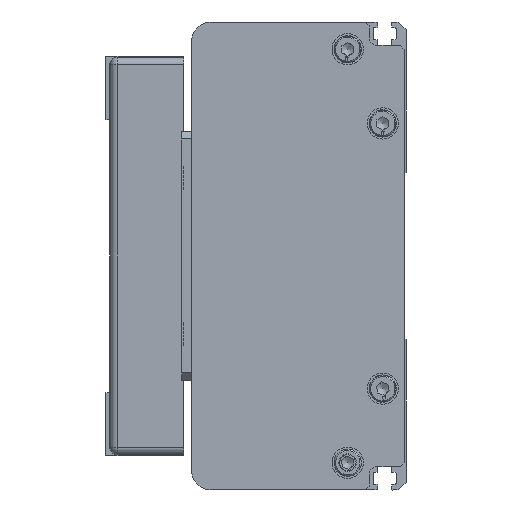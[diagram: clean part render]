
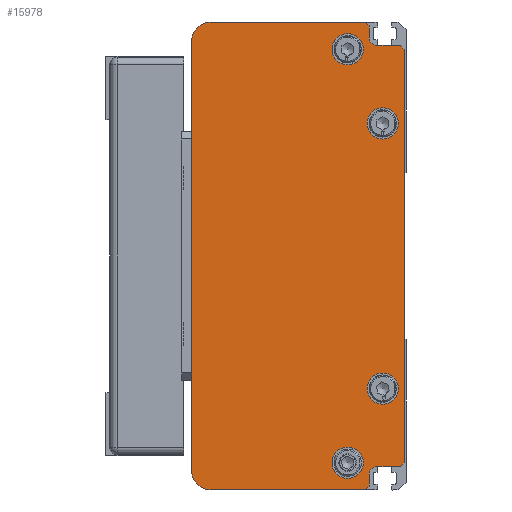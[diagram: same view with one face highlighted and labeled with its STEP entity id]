
A CAD part, left-side view. The second image highlights one B-rep face of the part: STEP entity #15978.
In plain terms, the highlighted planar face has unit normal (-1, 0, 0) as drawn and (0, 0, -1) by its records, which use the part's own axes.
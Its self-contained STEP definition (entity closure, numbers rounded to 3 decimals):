
#840=FACE_BOUND('',#2651,.T.);
#841=FACE_BOUND('',#2652,.T.);
#842=FACE_BOUND('',#2653,.T.);
#843=FACE_BOUND('',#2654,.T.);
#1168=CIRCLE('',#17126,5.);
#1169=CIRCLE('',#17128,5.);
#1170=CIRCLE('',#17129,2.);
#1171=CIRCLE('',#17130,2.);
#1172=CIRCLE('',#17131,4.);
#1173=CIRCLE('',#17132,4.);
#1174=CIRCLE('',#17133,4.);
#1175=CIRCLE('',#17134,4.);
#1608=FACE_OUTER_BOUND('',#2650,.T.);
#2650=EDGE_LOOP('',(#11016,#11017,#11018,#11019,#11020,#11021,#11022,#11023,
#11024,#11025,#11026,#11027,#11028,#11029,#11030,#11031));
#2651=EDGE_LOOP('',(#11032));
#2652=EDGE_LOOP('',(#11033));
#2653=EDGE_LOOP('',(#11034));
#2654=EDGE_LOOP('',(#11035));
#3897=LINE('',#22881,#5430);
#3898=LINE('',#22883,#5431);
#3899=LINE('',#22886,#5432);
#3900=LINE('',#22888,#5433);
#3901=LINE('',#22890,#5434);
#3902=LINE('',#22892,#5435);
#3903=LINE('',#22896,#5436);
#3904=LINE('',#22898,#5437);
#3905=LINE('',#22900,#5438);
#3906=LINE('',#22902,#5439);
#3907=LINE('',#22904,#5440);
#3908=LINE('',#22907,#5441);
#5430=VECTOR('',#18686,1.414);
#5431=VECTOR('',#18687,39.5);
#5432=VECTOR('',#18690,110.);
#5433=VECTOR('',#18691,39.5);
#5434=VECTOR('',#18692,1.414);
#5435=VECTOR('',#18693,3.);
#5436=VECTOR('',#18696,6.);
#5437=VECTOR('',#18697,1.414);
#5438=VECTOR('',#18698,106.);
#5439=VECTOR('',#18699,1.414);
#5440=VECTOR('',#18700,6.);
#5441=VECTOR('',#18703,3.);
#7005=VERTEX_POINT('',#22873);
#7006=VERTEX_POINT('',#22875);
#7007=VERTEX_POINT('',#22879);
#7008=VERTEX_POINT('',#22880);
#7009=VERTEX_POINT('',#22882);
#7010=VERTEX_POINT('',#22884);
#7011=VERTEX_POINT('',#22887);
#7012=VERTEX_POINT('',#22889);
#7013=VERTEX_POINT('',#22891);
#7014=VERTEX_POINT('',#22893);
#7015=VERTEX_POINT('',#22895);
#7016=VERTEX_POINT('',#22897);
#7017=VERTEX_POINT('',#22899);
#7018=VERTEX_POINT('',#22901);
#7019=VERTEX_POINT('',#22903);
#7020=VERTEX_POINT('',#22905);
#7021=VERTEX_POINT('',#22908);
#7022=VERTEX_POINT('',#22910);
#7023=VERTEX_POINT('',#22912);
#7024=VERTEX_POINT('',#22914);
#8607=EDGE_CURVE('',#7005,#7006,#1168,.T.);
#8609=EDGE_CURVE('',#7007,#7008,#3897,.T.);
#8610=EDGE_CURVE('',#7007,#7009,#3898,.T.);
#8611=EDGE_CURVE('',#7010,#7009,#1169,.T.);
#8612=EDGE_CURVE('',#7010,#7006,#3899,.T.);
#8613=EDGE_CURVE('',#7005,#7011,#3900,.T.);
#8614=EDGE_CURVE('',#7012,#7011,#3901,.T.);
#8615=EDGE_CURVE('',#7012,#7013,#3902,.T.);
#8616=EDGE_CURVE('',#7013,#7014,#1170,.T.);
#8617=EDGE_CURVE('',#7014,#7015,#3903,.T.);
#8618=EDGE_CURVE('',#7016,#7015,#3904,.T.);
#8619=EDGE_CURVE('',#7016,#7017,#3905,.T.);
#8620=EDGE_CURVE('',#7018,#7017,#3906,.T.);
#8621=EDGE_CURVE('',#7018,#7019,#3907,.T.);
#8622=EDGE_CURVE('',#7019,#7020,#1171,.T.);
#8623=EDGE_CURVE('',#7020,#7008,#3908,.T.);
#8624=EDGE_CURVE('',#7021,#7021,#1172,.T.);
#8625=EDGE_CURVE('',#7022,#7022,#1173,.T.);
#8626=EDGE_CURVE('',#7023,#7023,#1174,.T.);
#8627=EDGE_CURVE('',#7024,#7024,#1175,.T.);
#11016=ORIENTED_EDGE('',*,*,#8609,.F.);
#11017=ORIENTED_EDGE('',*,*,#8610,.T.);
#11018=ORIENTED_EDGE('',*,*,#8611,.F.);
#11019=ORIENTED_EDGE('',*,*,#8612,.T.);
#11020=ORIENTED_EDGE('',*,*,#8607,.F.);
#11021=ORIENTED_EDGE('',*,*,#8613,.T.);
#11022=ORIENTED_EDGE('',*,*,#8614,.F.);
#11023=ORIENTED_EDGE('',*,*,#8615,.T.);
#11024=ORIENTED_EDGE('',*,*,#8616,.T.);
#11025=ORIENTED_EDGE('',*,*,#8617,.T.);
#11026=ORIENTED_EDGE('',*,*,#8618,.F.);
#11027=ORIENTED_EDGE('',*,*,#8619,.T.);
#11028=ORIENTED_EDGE('',*,*,#8620,.F.);
#11029=ORIENTED_EDGE('',*,*,#8621,.T.);
#11030=ORIENTED_EDGE('',*,*,#8622,.T.);
#11031=ORIENTED_EDGE('',*,*,#8623,.T.);
#11032=ORIENTED_EDGE('',*,*,#8624,.T.);
#11033=ORIENTED_EDGE('',*,*,#8625,.T.);
#11034=ORIENTED_EDGE('',*,*,#8626,.T.);
#11035=ORIENTED_EDGE('',*,*,#8627,.T.);
#15346=PLANE('',#17127);
#15978=ADVANCED_FACE('',(#1608,#840,#841,#842,#843),#15346,.F.);
#17126=AXIS2_PLACEMENT_3D('',#22876,#18681,#18682);
#17127=AXIS2_PLACEMENT_3D('',#22878,#18684,#18685);
#17128=AXIS2_PLACEMENT_3D('',#22885,#18688,#18689);
#17129=AXIS2_PLACEMENT_3D('',#22894,#18694,#18695);
#17130=AXIS2_PLACEMENT_3D('',#22906,#18701,#18702);
#17131=AXIS2_PLACEMENT_3D('',#22909,#18704,#18705);
#17132=AXIS2_PLACEMENT_3D('',#22911,#18706,#18707);
#17133=AXIS2_PLACEMENT_3D('',#22913,#18708,#18709);
#17134=AXIS2_PLACEMENT_3D('',#22915,#18710,#18711);
#18681=DIRECTION('center_axis',(0.,0.,
1.));
#18682=DIRECTION('ref_axis',(0.707,0.707,0.));
#18684=DIRECTION('center_axis',(0.,0.,
1.));
#18685=DIRECTION('ref_axis',(-1.,-0.018,0.));
#18686=DIRECTION('',(0.707,-0.707,0.));
#18687=DIRECTION('',(0.,1.,0.));
#18688=DIRECTION('center_axis',(0.,0.,
1.));
#18689=DIRECTION('ref_axis',(-0.707,0.707,0.));
#18690=DIRECTION('',(1.,0.,0.));
#18691=DIRECTION('',(0.,-1.,0.));
#18692=DIRECTION('',(0.707,0.707,0.));
#18693=DIRECTION('',(-1.,0.,0.));
#18694=DIRECTION('center_axis',(0.,0.,
1.));
#18695=DIRECTION('ref_axis',(0.,-1.,0.));
#18696=DIRECTION('',(0.,-1.,0.));
#18697=DIRECTION('',(0.707,0.707,0.));
#18698=DIRECTION('',(-1.,0.,0.));
#18699=DIRECTION('',(0.707,-0.707,0.));
#18700=DIRECTION('',(0.,1.,0.));
#18701=DIRECTION('center_axis',(0.,0.,
1.));
#18702=DIRECTION('ref_axis',(1.,0.,0.));
#18703=DIRECTION('',(-1.,0.,0.));
#18704=DIRECTION('center_axis',(0.,0.,
1.));
#18705=DIRECTION('ref_axis',(0.,1.,0.));
#18706=DIRECTION('center_axis',(0.,0.,
1.));
#18707=DIRECTION('ref_axis',(0.,1.,0.));
#18708=DIRECTION('center_axis',(0.,0.,
1.));
#18709=DIRECTION('ref_axis',(0.,1.,0.));
#18710=DIRECTION('center_axis',(0.,0.,
1.));
#18711=DIRECTION('ref_axis',(0.,1.,0.));
#22873=CARTESIAN_POINT('',(124.75,50.75,-1142.5));
#22875=CARTESIAN_POINT('',(119.75,55.75,-1142.5));
#22876=CARTESIAN_POINT('Origin',(119.75,50.75,-1142.5));
#22878=CARTESIAN_POINT('Origin',(64.75,28.5,-1142.5));
#22879=CARTESIAN_POINT('',(4.75,11.25,-1142.5));
#22880=CARTESIAN_POINT('',(5.75,10.25,-1142.5));
#22881=CARTESIAN_POINT('',(4.75,11.25,-1142.5));
#22882=CARTESIAN_POINT('',(4.75,50.75,-1142.5));
#22883=CARTESIAN_POINT('',(4.75,11.25,-1142.5));
#22884=CARTESIAN_POINT('',(9.75,55.75,-1142.5));
#22885=CARTESIAN_POINT('Origin',(9.75,50.75,-1142.5));
#22886=CARTESIAN_POINT('',(9.75,55.75,-1142.5));
#22887=CARTESIAN_POINT('',(124.75,11.25,-1142.5));
#22888=CARTESIAN_POINT('',(124.75,50.75,-1142.5));
#22889=CARTESIAN_POINT('',(123.75,10.25,-1142.5));
#22890=CARTESIAN_POINT('',(123.75,10.25,-1142.5));
#22891=CARTESIAN_POINT('',(120.75,10.25,-1142.5));
#22892=CARTESIAN_POINT('',(123.75,10.25,-1142.5));
#22893=CARTESIAN_POINT('',(118.75,8.25,-1142.5));
#22894=CARTESIAN_POINT('Origin',(120.75,8.25,-1142.5));
#22895=CARTESIAN_POINT('',(118.75,2.25,-1142.5));
#22896=CARTESIAN_POINT('',(118.75,8.25,-1142.5));
#22897=CARTESIAN_POINT('',(117.75,1.25,-1142.5));
#22898=CARTESIAN_POINT('',(117.75,1.25,-1142.5));
#22899=CARTESIAN_POINT('',(11.75,1.25,-1142.5));
#22900=CARTESIAN_POINT('',(117.75,1.25,-1142.5));
#22901=CARTESIAN_POINT('',(10.75,2.25,-1142.5));
#22902=CARTESIAN_POINT('',(10.75,2.25,-1142.5));
#22903=CARTESIAN_POINT('',(10.75,8.25,-1142.5));
#22904=CARTESIAN_POINT('',(10.75,2.25,-1142.5));
#22905=CARTESIAN_POINT('',(8.75,10.25,-1142.5));
#22906=CARTESIAN_POINT('Origin',(8.75,8.25,-1142.5));
#22907=CARTESIAN_POINT('',(8.75,10.25,-1142.5));
#22908=CARTESIAN_POINT('',(30.75,10.75,-1142.5));
#22909=CARTESIAN_POINT('Origin',(30.75,6.75,-1142.5));
#22910=CARTESIAN_POINT('',(98.75,10.75,-1142.5));
#22911=CARTESIAN_POINT('Origin',(98.75,6.75,-1142.5));
#22912=CARTESIAN_POINT('',(11.75,19.75,-1142.5));
#22913=CARTESIAN_POINT('Origin',(11.75,15.75,-1142.5));
#22914=CARTESIAN_POINT('',(117.75,19.75,-1142.5));
#22915=CARTESIAN_POINT('Origin',(117.75,15.75,-1142.5));
